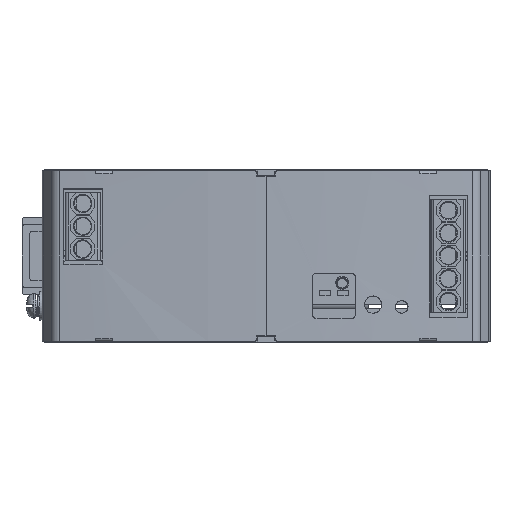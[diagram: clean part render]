
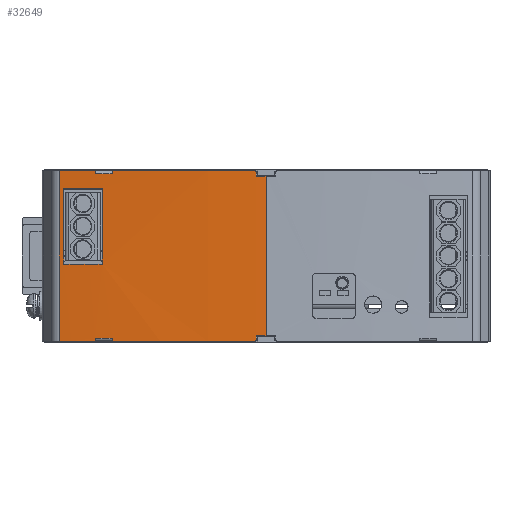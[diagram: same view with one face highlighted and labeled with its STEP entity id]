
A CAD part, front view. The second image highlights one B-rep face of the part: STEP entity #32649.
In plain terms, the highlighted cylindrical face has radius 500.8 mm (diameter 1001.6 mm), a partial arc.
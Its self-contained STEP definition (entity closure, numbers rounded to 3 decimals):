
#24967=CARTESIAN_POINT('',(-47.692,-19.616,-46.25));
#24968=VERTEX_POINT('',#24967);
#24975=CARTESIAN_POINT('',(-57.636,-18.564,-46.25));
#24976=VERTEX_POINT('',#24975);
#24977=CARTESIAN_POINT('',(0.,478.908,-46.25));
#24978=DIRECTION('',(-0.,-0.,1.));
#24979=DIRECTION('',(1.,0.,0.));
#24980=AXIS2_PLACEMENT_3D('',#24977,#24978,#24979);
#24981=CIRCLE('',#24980,500.8);
#24982=EDGE_CURVE('',#24976,#24968,#24981,.T.);
#25052=CARTESIAN_POINT('',(-57.636,-18.564,1.25));
#25053=VERTEX_POINT('',#25052);
#25061=CARTESIAN_POINT('',(-47.693,-19.616,1.25));
#25062=VERTEX_POINT('',#25061);
#25063=CARTESIAN_POINT('',(0.,478.908,1.25));
#25064=DIRECTION('',(0.,0.,-1.));
#25065=DIRECTION('',(1.,0.,0.));
#25066=AXIS2_PLACEMENT_3D('',#25063,#25064,#25065);
#25067=CIRCLE('',#25066,500.8);
#25068=EDGE_CURVE('',#25062,#25053,#25067,.T.);
#32420=CARTESIAN_POINT('',(-57.636,-18.564,-46.25));
#32421=DIRECTION('',(-0.,-0.,1.));
#32422=VECTOR('',#32421,47.5);
#32423=LINE('',#32420,#32422);
#32424=EDGE_CURVE('',#24976,#25053,#32423,.T.);
#32461=CARTESIAN_POINT('',(-47.692,-19.616,-45.45));
#32462=VERTEX_POINT('',#32461);
#32469=CARTESIAN_POINT('',(-47.692,-19.616,-45.45));
#32470=DIRECTION('',(0.,0.,-1.));
#32471=VECTOR('',#32470,0.8);
#32472=LINE('',#32469,#32471);
#32473=EDGE_CURVE('',#32462,#24968,#32472,.T.);
#32478=CARTESIAN_POINT('',(0.,478.908,1.25));
#32479=DIRECTION('',(0.,0.,-1.));
#32480=DIRECTION('',(0.,-1.,0.));
#32481=AXIS2_PLACEMENT_3D('',#32478,#32479,#32480);
#32482=CYLINDRICAL_SURFACE('',#32481,500.8);
#32483=CARTESIAN_POINT('',(0.,-21.892,-44.75));
#32484=VERTEX_POINT('',#32483);
#32485=CARTESIAN_POINT('',(0.,-21.892,-0.25));
#32486=VERTEX_POINT('',#32485);
#32487=CARTESIAN_POINT('',(0.,-21.892,-44.75));
#32488=DIRECTION('',(-0.,-0.,1.));
#32489=VECTOR('',#32488,44.5);
#32490=LINE('',#32487,#32489);
#32491=EDGE_CURVE('',#32484,#32486,#32490,.T.);
#32492=ORIENTED_EDGE('',*,*,#32491,.T.);
#32493=CARTESIAN_POINT('',(-2.75,-21.884,-0.25));
#32494=VERTEX_POINT('',#32493);
#32495=CARTESIAN_POINT('',(0.,478.908,-0.25));
#32496=DIRECTION('',(-0.,-0.,1.));
#32497=DIRECTION('',(1.,0.,0.));
#32498=AXIS2_PLACEMENT_3D('',#32495,#32496,#32497);
#32499=CIRCLE('',#32498,500.8);
#32500=EDGE_CURVE('',#32494,#32486,#32499,.T.);
#32501=ORIENTED_EDGE('',*,*,#32500,.F.);
#32502=CARTESIAN_POINT('',(-2.75,-21.884,1.05));
#32503=VERTEX_POINT('',#32502);
#32504=CARTESIAN_POINT('',(-2.75,-21.884,1.05));
#32505=DIRECTION('',(0.,0.,-1.));
#32506=VECTOR('',#32505,1.3);
#32507=LINE('',#32504,#32506);
#32508=EDGE_CURVE('',#32503,#32494,#32507,.T.);
#32509=ORIENTED_EDGE('',*,*,#32508,.F.);
#32510=CARTESIAN_POINT('',(-2.95,-21.883,1.25));
#32511=VERTEX_POINT('',#32510);
#32512=CARTESIAN_POINT('',(-2.95,-21.883,1.25));
#32513=CARTESIAN_POINT('',(-2.897,-21.883,1.25));
#32514=CARTESIAN_POINT('',(-2.846,-21.884,1.228));
#32515=CARTESIAN_POINT('',(-2.809,-21.884,1.191));
#32516=CARTESIAN_POINT('',(-2.772,-21.884,1.155));
#32517=CARTESIAN_POINT('',(-2.75,-21.884,1.103));
#32518=CARTESIAN_POINT('',(-2.75,-21.884,1.05));
#32519=B_SPLINE_CURVE_WITH_KNOTS('',3,(#32512,#32513,#32514,#32515,#32516,#32517,#32518),.UNSPECIFIED.,.F.,.F.,(4,3,4),(0.,0.,0.),.UNSPECIFIED.);
#32520=EDGE_CURVE('',#32511,#32503,#32519,.T.);
#32521=ORIENTED_EDGE('',*,*,#32520,.F.);
#32522=CARTESIAN_POINT('',(-42.898,-20.051,1.25));
#32523=VERTEX_POINT('',#32522);
#32524=CARTESIAN_POINT('',(0.,478.908,1.25));
#32525=DIRECTION('',(0.,0.,-1.));
#32526=DIRECTION('',(1.,0.,0.));
#32527=AXIS2_PLACEMENT_3D('',#32524,#32525,#32526);
#32528=CIRCLE('',#32527,500.8);
#32529=EDGE_CURVE('',#32511,#32523,#32528,.T.);
#32530=ORIENTED_EDGE('',*,*,#32529,.T.);
#32531=CARTESIAN_POINT('',(-42.898,-20.051,0.45));
#32532=VERTEX_POINT('',#32531);
#32533=CARTESIAN_POINT('',(-42.898,-20.051,0.45));
#32534=DIRECTION('',(0.,0.,1.));
#32535=VECTOR('',#32534,0.8);
#32536=LINE('',#32533,#32535);
#32537=EDGE_CURVE('',#32532,#32523,#32536,.T.);
#32538=ORIENTED_EDGE('',*,*,#32537,.F.);
#32539=CARTESIAN_POINT('',(-47.693,-19.616,0.45));
#32540=VERTEX_POINT('',#32539);
#32541=CARTESIAN_POINT('',(0.,478.908,0.45));
#32542=DIRECTION('',(0.,0.,-1.));
#32543=DIRECTION('',(1.,0.,0.));
#32544=AXIS2_PLACEMENT_3D('',#32541,#32542,#32543);
#32545=CIRCLE('',#32544,500.8);
#32546=EDGE_CURVE('',#32532,#32540,#32545,.T.);
#32547=ORIENTED_EDGE('',*,*,#32546,.T.);
#32548=CARTESIAN_POINT('',(-47.693,-19.616,1.25));
#32549=DIRECTION('',(-0.,-0.,-1.));
#32550=VECTOR('',#32549,0.8);
#32551=LINE('',#32548,#32550);
#32552=EDGE_CURVE('',#25062,#32540,#32551,.T.);
#32553=ORIENTED_EDGE('',*,*,#32552,.F.);
#32554=ORIENTED_EDGE('',*,*,#25068,.T.);
#32555=ORIENTED_EDGE('',*,*,#32424,.F.);
#32556=ORIENTED_EDGE('',*,*,#24982,.T.);
#32557=ORIENTED_EDGE('',*,*,#32473,.F.);
#32558=CARTESIAN_POINT('',(-42.898,-20.051,-45.45));
#32559=VERTEX_POINT('',#32558);
#32560=CARTESIAN_POINT('',(0.,478.908,-45.45));
#32561=DIRECTION('',(-0.,-0.,1.));
#32562=DIRECTION('',(1.,0.,0.));
#32563=AXIS2_PLACEMENT_3D('',#32560,#32561,#32562);
#32564=CIRCLE('',#32563,500.8);
#32565=EDGE_CURVE('',#32462,#32559,#32564,.T.);
#32566=ORIENTED_EDGE('',*,*,#32565,.T.);
#32567=CARTESIAN_POINT('',(-42.898,-20.051,-46.25));
#32568=VERTEX_POINT('',#32567);
#32569=CARTESIAN_POINT('',(-42.898,-20.051,-46.25));
#32570=DIRECTION('',(-0.,-0.,1.));
#32571=VECTOR('',#32570,0.8);
#32572=LINE('',#32569,#32571);
#32573=EDGE_CURVE('',#32568,#32559,#32572,.T.);
#32574=ORIENTED_EDGE('',*,*,#32573,.F.);
#32575=CARTESIAN_POINT('',(-2.95,-21.883,-46.25));
#32576=VERTEX_POINT('',#32575);
#32577=CARTESIAN_POINT('',(0.,478.908,-46.25));
#32578=DIRECTION('',(-0.,-0.,1.));
#32579=DIRECTION('',(1.,0.,0.));
#32580=AXIS2_PLACEMENT_3D('',#32577,#32578,#32579);
#32581=CIRCLE('',#32580,500.8);
#32582=EDGE_CURVE('',#32568,#32576,#32581,.T.);
#32583=ORIENTED_EDGE('',*,*,#32582,.T.);
#32584=CARTESIAN_POINT('',(-2.75,-21.884,-46.05));
#32585=VERTEX_POINT('',#32584);
#32586=CARTESIAN_POINT('',(-2.75,-21.884,-46.05));
#32587=CARTESIAN_POINT('',(-2.75,-21.884,-46.103));
#32588=CARTESIAN_POINT('',(-2.772,-21.884,-46.154));
#32589=CARTESIAN_POINT('',(-2.809,-21.884,-46.191));
#32590=CARTESIAN_POINT('',(-2.845,-21.884,-46.228));
#32591=CARTESIAN_POINT('',(-2.897,-21.883,-46.25));
#32592=CARTESIAN_POINT('',(-2.95,-21.883,-46.25));
#32593=B_SPLINE_CURVE_WITH_KNOTS('',3,(#32586,#32587,#32588,#32589,#32590,#32591,#32592),.UNSPECIFIED.,.F.,.F.,(4,3,4),(0.,0.,0.),.UNSPECIFIED.);
#32594=EDGE_CURVE('',#32585,#32576,#32593,.T.);
#32595=ORIENTED_EDGE('',*,*,#32594,.F.);
#32596=CARTESIAN_POINT('',(-2.75,-21.884,-44.75));
#32597=VERTEX_POINT('',#32596);
#32598=CARTESIAN_POINT('',(-2.75,-21.884,-44.75));
#32599=DIRECTION('',(0.,0.,-1.));
#32600=VECTOR('',#32599,1.3);
#32601=LINE('',#32598,#32600);
#32602=EDGE_CURVE('',#32597,#32585,#32601,.T.);
#32603=ORIENTED_EDGE('',*,*,#32602,.F.);
#32604=CARTESIAN_POINT('',(0.,478.908,-44.75));
#32605=DIRECTION('',(-0.,-0.,1.));
#32606=DIRECTION('',(1.,0.,0.));
#32607=AXIS2_PLACEMENT_3D('',#32604,#32605,#32606);
#32608=CIRCLE('',#32607,500.8);
#32609=EDGE_CURVE('',#32597,#32484,#32608,.T.);
#32610=ORIENTED_EDGE('',*,*,#32609,.T.);
#32611=EDGE_LOOP('',(#32492,#32501,#32509,#32521,#32530,#32538,#32547,#32553,#32554,#32555,#32556,#32557,#32566,#32574,#32583,#32595,#32603,#32610));
#32612=FACE_BOUND('',#32611,.T.);
#32613=CARTESIAN_POINT('',(-56.5,-18.694,-3.55));
#32614=VERTEX_POINT('',#32613);
#32615=CARTESIAN_POINT('',(-45.7,-19.802,-3.55));
#32616=VERTEX_POINT('',#32615);
#32617=CARTESIAN_POINT('',(0.,478.908,-3.55));
#32618=DIRECTION('',(-0.,-0.,1.));
#32619=DIRECTION('',(1.,0.,0.));
#32620=AXIS2_PLACEMENT_3D('',#32617,#32618,#32619);
#32621=CIRCLE('',#32620,500.8);
#32622=EDGE_CURVE('',#32614,#32616,#32621,.T.);
#32623=ORIENTED_EDGE('',*,*,#32622,.T.);
#32624=CARTESIAN_POINT('',(-45.7,-19.802,-24.75));
#32625=VERTEX_POINT('',#32624);
#32626=CARTESIAN_POINT('',(-45.7,-19.802,-24.75));
#32627=DIRECTION('',(-0.,-0.,1.));
#32628=VECTOR('',#32627,21.2);
#32629=LINE('',#32626,#32628);
#32630=EDGE_CURVE('',#32625,#32616,#32629,.T.);
#32631=ORIENTED_EDGE('',*,*,#32630,.F.);
#32632=CARTESIAN_POINT('',(-56.5,-18.694,-24.75));
#32633=VERTEX_POINT('',#32632);
#32634=CARTESIAN_POINT('',(0.,478.908,-24.75));
#32635=DIRECTION('',(0.,0.,-1.));
#32636=DIRECTION('',(1.,0.,0.));
#32637=AXIS2_PLACEMENT_3D('',#32634,#32635,#32636);
#32638=CIRCLE('',#32637,500.8);
#32639=EDGE_CURVE('',#32625,#32633,#32638,.T.);
#32640=ORIENTED_EDGE('',*,*,#32639,.T.);
#32641=CARTESIAN_POINT('',(-56.5,-18.694,-3.55));
#32642=DIRECTION('',(0.,0.,-1.));
#32643=VECTOR('',#32642,21.2);
#32644=LINE('',#32641,#32643);
#32645=EDGE_CURVE('',#32614,#32633,#32644,.T.);
#32646=ORIENTED_EDGE('',*,*,#32645,.F.);
#32647=EDGE_LOOP('',(#32623,#32631,#32640,#32646));
#32648=FACE_BOUND('',#32647,.T.);
#32649=ADVANCED_FACE('',(#32612,#32648),#32482,.T.);
